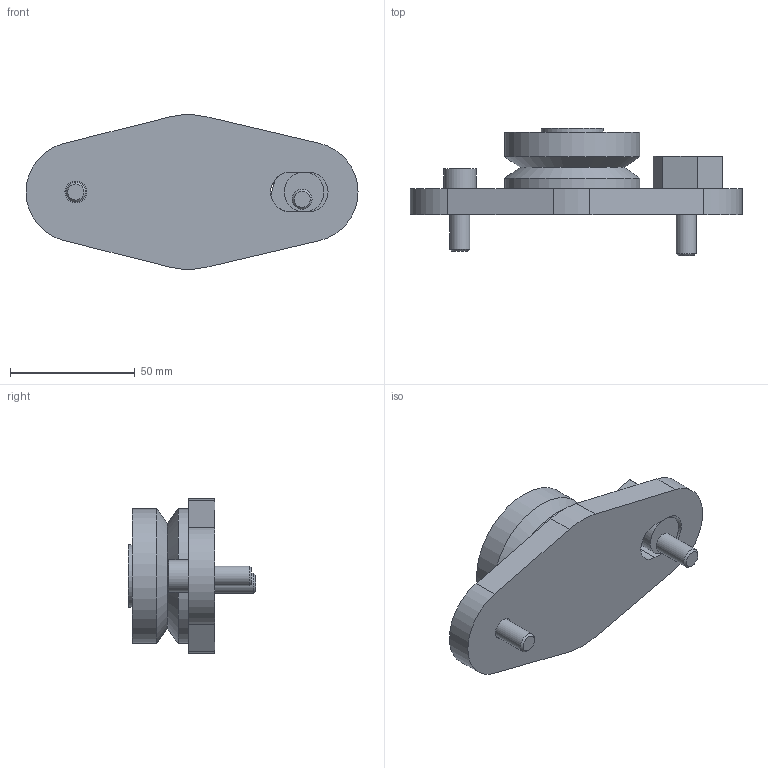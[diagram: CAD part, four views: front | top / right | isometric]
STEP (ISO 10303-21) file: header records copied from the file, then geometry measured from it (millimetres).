
FILE_DESCRIPTION( ( 'STEP AP203' ), '1' );
FILE_NAME( 'p:/temp/worker_333/temp/exporttempdir_3604_114_dzB7t/format_0/RBHJ54E.stp', '2022-06-02T04:31:59', ( 'License CC BY-ND 4.0' ), ( 'CADENAS' ), ' ', 'PARTsolutions', ' ' );
FILE_SCHEMA( ( 'CONFIG_CONTROL_DESIGN' ) );
Length unit declared in the file: millimetre
Products named in the file (1): _RBHJ54E
Bounding box: 133 x 51.1 x 61.84 mm (x, y, z)
Volume: 120687.4 mm3; surface area: 24571.1 mm2
Topology: 1 solids, 1 shells, 64 faces, 149 edges, 98 vertices
Faces by surface type: plane 45, cylinder 15, cone 4
Full cylindrical faces by diameter (mm): 8 x2, 8.8 x1, 13 x2, 15.96 x1, 25 x1, 54 x2
Entity records: 1772 total; most frequent: DIRECTION 298, CARTESIAN_POINT 293, ORIENTED_EDGE 266, EDGE_CURVE 133, AXIS2_PLACEMENT_3D 100, LINE 98, VECTOR 98, VERTEX_POINT 95
